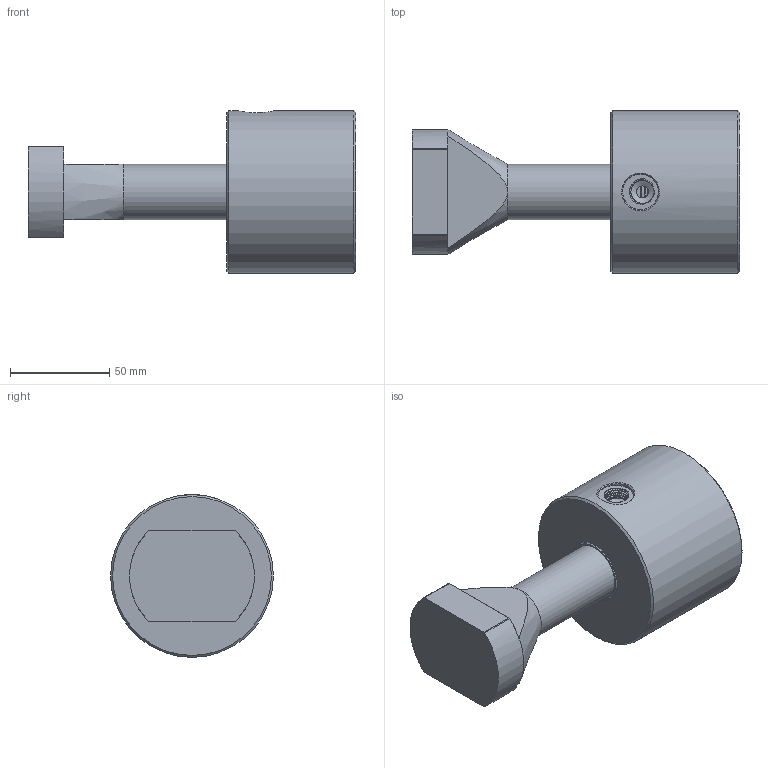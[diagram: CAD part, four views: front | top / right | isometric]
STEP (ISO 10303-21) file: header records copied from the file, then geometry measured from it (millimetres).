
FILE_DESCRIPTION(/* description */ (''),/* implementation_level */ '2;1');
FILE_NAME(/* name */ 'KRCA_6_WEB v2.step',/* time_stamp */ '2025-05-19T10:28:17+03:00',/* author */ (''),/* organization */ (''),/* preprocessor_version */ 'ST-DEVELOPER v20.1',/* originating_system */ 'Autodesk Translation Framework v14.4.0.0',/* authorisation */ '');
FILE_SCHEMA (('AUTOMOTIVE_DESIGN { 1 0 10303 214 3 1 1 }'));
Length unit declared in the file: millimetre
Products named in the file (17): KRCA_6_WEB; KRCA_6_GOVDE; Bileşen1; 28_32_10; Bileşen1_1; K103-028; KRCA6_arka_kapak; Bileşen1_2; 55_PİSTON; Bileşen1_3; K69-055/2 (55X50X8); Bileşen1_4; K23-055_3; KO-24X2; Bileşen1_5; T_SLOT_2; Bileşen1_6
Assembly tree (16 placements, depth 4):
  KRCA_6_WEB
    KRCA_6_GOVDE
      Bileşen1
      28_32_10
        Bileşen1_1
      K103-028
    KRCA6_arka_kapak
      Bileşen1_2
    55_PİSTON
      Bileşen1_3
      K69-055/2 (55X50X8)
        Bileşen1_4
      K23-055_3
      KO-24X2
        Bileşen1_5
    T_SLOT_2
      Bileşen1_6
Bounding box: 165 x 82 x 82 mm (x, y, z)
Volume: 412487.4 mm3; surface area: 91039.3 mm2
Topology: 9 solids, 9 shells, 228 faces, 537 edges, 348 vertices
Faces by surface type: cylinder 102, plane 60, cone 37, bspline 15, torus 14
Full cylindrical faces by diameter (mm): 5 x4, 6 x1, 9.836 x7, 10.274 x6, 11.834 x7, 12.226 x7, 13.157 x4, 18 x1, 22 x1, 28 x4, 28.5 x1, 28.601 x1, 28.8 x1, 32 x2, 32.3 x1, 36 x2, 38 x1, 45 x1, 45.6 x1, 50 x2, 54.5 x3, 55 x4, 63.127 x4, 63.526 x5, 64.85 x5, 65.214 x5, 82 x1
Entity records: 17476 total; most frequent: CARTESIAN_POINT 11987, ORIENTED_EDGE 1074, DIRECTION 1038, EDGE_CURVE 537, AXIS2_PLACEMENT_3D 442, VERTEX_POINT 348, EDGE_LOOP 265, FACE_OUTER_BOUND 228
